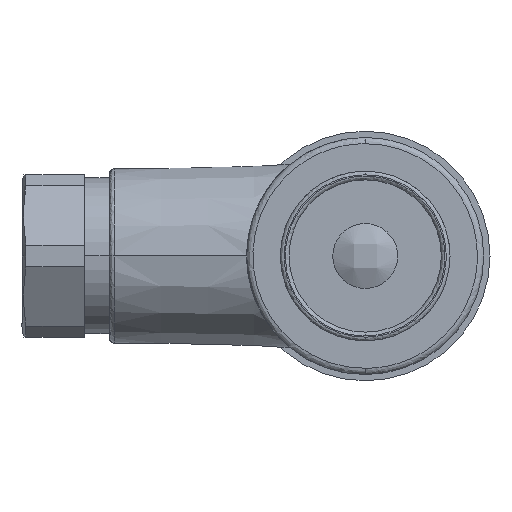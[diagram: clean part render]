
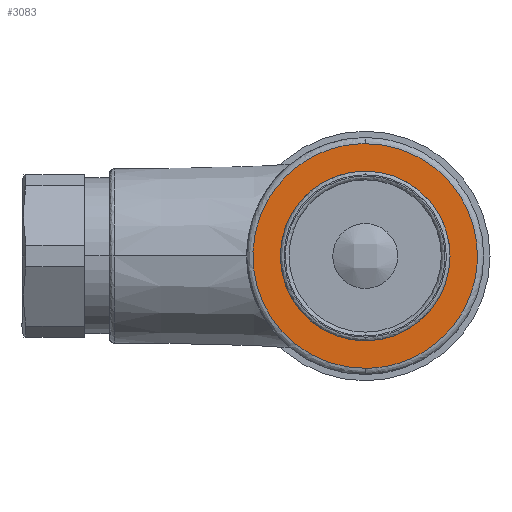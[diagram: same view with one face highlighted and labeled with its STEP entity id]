
A CAD part, left-side view. The second image highlights one B-rep face of the part: STEP entity #3083.
In plain terms, the highlighted planar face has unit normal (-1, 0, 0).
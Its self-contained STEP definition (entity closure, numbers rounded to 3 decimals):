
#354 = ORIENTED_EDGE ( 'NONE', *, *, #571, .F. ) ;
#491 = VERTEX_POINT ( 'NONE', #3137 ) ;
#497 = CARTESIAN_POINT ( 'NONE',  ( -86.8, -18., -9. ) ) ;
#517 = CARTESIAN_POINT ( 'NONE',  ( -86.8, 0., -6.8 ) ) ;
#571 = EDGE_CURVE ( 'NONE', #3919, #491, #5260, .T. ) ;
#707 =( BOUNDED_CURVE ( )  B_SPLINE_CURVE ( 3, ( #2971, #1313, #497, #2132 ),
 .UNSPECIFIED., .F., .F. ) 
 B_SPLINE_CURVE_WITH_KNOTS ( ( 4, 4 ),
 ( 0., 1. ),
 .UNSPECIFIED. ) 
 CURVE ( )  GEOMETRIC_REPRESENTATION_ITEM ( )  RATIONAL_B_SPLINE_CURVE ( ( 1., 0.333, 0.333, 1. ) ) 
 REPRESENTATION_ITEM ( '' )  );
#831 = PLANE ( 'NONE',  #3412 ) ;
#854 = CARTESIAN_POINT ( 'NONE',  ( -86.8, 0., 6.8 ) ) ;
#883 = FACE_OUTER_BOUND ( 'NONE', #4991, .T. ) ;
#1184 = CARTESIAN_POINT ( 'NONE',  ( -86.8, 0., 9. ) ) ;
#1286 = ORIENTED_EDGE ( 'NONE', *, *, #1436, .F. ) ;
#1313 = CARTESIAN_POINT ( 'NONE',  ( -86.8, -18., 9. ) ) ;
#1343 = ORIENTED_EDGE ( 'NONE', *, *, #4412, .F. ) ;
#1436 = EDGE_CURVE ( 'NONE', #491, #3919, #707, .T. ) ;
#1622 = DIRECTION ( 'NONE',  ( -1., 0., 0. ) ) ;
#1898 = CARTESIAN_POINT ( 'NONE',  ( -86.8, 18., 9. ) ) ;
#2132 = CARTESIAN_POINT ( 'NONE',  ( -86.8, 0., -9. ) ) ;
#2433 = CARTESIAN_POINT ( 'NONE',  ( -86.8, 0., 0. ) ) ;
#2485 = CARTESIAN_POINT ( 'NONE',  ( -86.8, 0., 0. ) ) ;
#2971 = CARTESIAN_POINT ( 'NONE',  ( -86.8, 0., 9. ) ) ;
#3035 = VERTEX_POINT ( 'NONE', #854 ) ;
#3048 = DIRECTION ( 'NONE',  ( -1., 0., 0. ) ) ;
#3083 = ADVANCED_FACE ( 'NONE', ( #4494, #883 ), #831, .F. ) ;
#3090 = CIRCLE ( 'NONE', #3432, 6.8 ) ;
#3137 = CARTESIAN_POINT ( 'NONE',  ( -86.8, 0., 9. ) ) ;
#3169 = CIRCLE ( 'NONE', #3336, 6.8 ) ;
#3196 = CARTESIAN_POINT ( 'NONE',  ( -86.8, 0., -9. ) ) ;
#3275 = DIRECTION ( 'NONE',  ( 0., 0., 1. ) ) ;
#3336 = AXIS2_PLACEMENT_3D ( 'NONE', #2433, #1622, #3645 ) ;
#3412 = AXIS2_PLACEMENT_3D ( 'NONE', #2485, #3680, #3275 ) ;
#3432 = AXIS2_PLACEMENT_3D ( 'NONE', #4280, #3048, #4681 ) ;
#3526 = VERTEX_POINT ( 'NONE', #517 ) ;
#3645 = DIRECTION ( 'NONE',  ( 0., 0., 1. ) ) ;
#3680 = DIRECTION ( 'NONE',  ( 1., 0., 0. ) ) ;
#3745 = ORIENTED_EDGE ( 'NONE', *, *, #4612, .F. ) ;
#3919 = VERTEX_POINT ( 'NONE', #4150 ) ;
#4015 = CARTESIAN_POINT ( 'NONE',  ( -86.8, 18., -9. ) ) ;
#4129 = EDGE_LOOP ( 'NONE', ( #3745, #1343 ) ) ;
#4150 = CARTESIAN_POINT ( 'NONE',  ( -86.8, 0., -9. ) ) ;
#4280 = CARTESIAN_POINT ( 'NONE',  ( -86.8, 0., 0. ) ) ;
#4412 = EDGE_CURVE ( 'NONE', #3526, #3035, #3169, .T. ) ;
#4494 = FACE_BOUND ( 'NONE', #4129, .T. ) ;
#4612 = EDGE_CURVE ( 'NONE', #3035, #3526, #3090, .T. ) ;
#4681 = DIRECTION ( 'NONE',  ( 0., 0., 1. ) ) ;
#4991 = EDGE_LOOP ( 'NONE', ( #354, #1286 ) ) ;
#5260 =( BOUNDED_CURVE ( )  B_SPLINE_CURVE ( 3, ( #3196, #4015, #1898, #1184 ),
 .UNSPECIFIED., .F., .T. ) 
 B_SPLINE_CURVE_WITH_KNOTS ( ( 4, 4 ),
 ( 0., 1. ),
 .UNSPECIFIED. ) 
 CURVE ( )  GEOMETRIC_REPRESENTATION_ITEM ( )  RATIONAL_B_SPLINE_CURVE ( ( 1., 0.333, 0.333, 1. ) ) 
 REPRESENTATION_ITEM ( '' )  );
